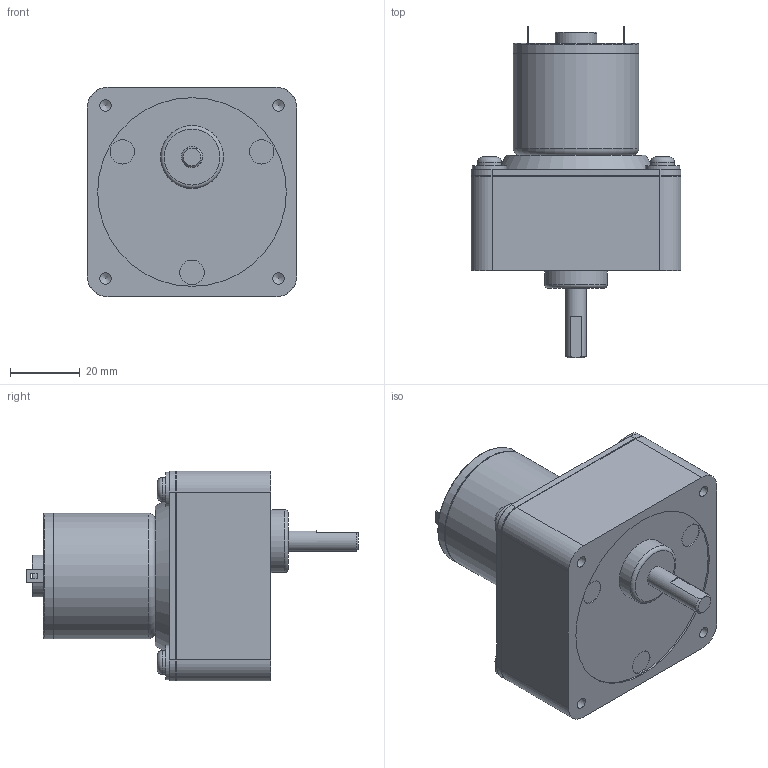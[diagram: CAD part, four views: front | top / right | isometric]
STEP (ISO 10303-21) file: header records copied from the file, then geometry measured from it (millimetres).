
FILE_DESCRIPTION((''),'2;1');
FILE_NAME('C:\Documents and Settings\SSEGAWA\デスクトップ\TP-3632A-CE.stp','2013-07-11T15:57:48',('SSEGAWA'),(''),'Autodesk Inventor 2010','Autodesk Inventor 2010','');
FILE_SCHEMA(('CONFIG_CONTROL_DESIGN'));
Length unit declared in the file: millimetre
Products named in the file (1): tp_3632a,c_ce_Shrinkwrap_1
Bounding box: 60 x 95 x 60 mm (x, y, z)
Volume: 143078.5 mm3; surface area: 19785.1 mm2
Topology: 1 solids, 3 shells, 123 faces, 269 edges, 177 vertices
Faces by surface type: plane 65, cylinder 32, bspline 16, torus 8, cone 2
Full cylindrical faces by diameter (mm): 4 x1, 4.5 x1, 6 x1, 6.8 x4, 7 x3, 9.8 x4, 12 x1, 18 x1, 35.6 x1, 36 x2, 54 x1
Entity records: 3349 total; most frequent: CARTESIAN_POINT 719, DIRECTION 515, ORIENTED_EDGE 426, EDGE_CURVE 213, AXIS2_PLACEMENT_3D 196, EDGE_LOOP 193, VERTEX_POINT 162, STYLED_ITEM 124
